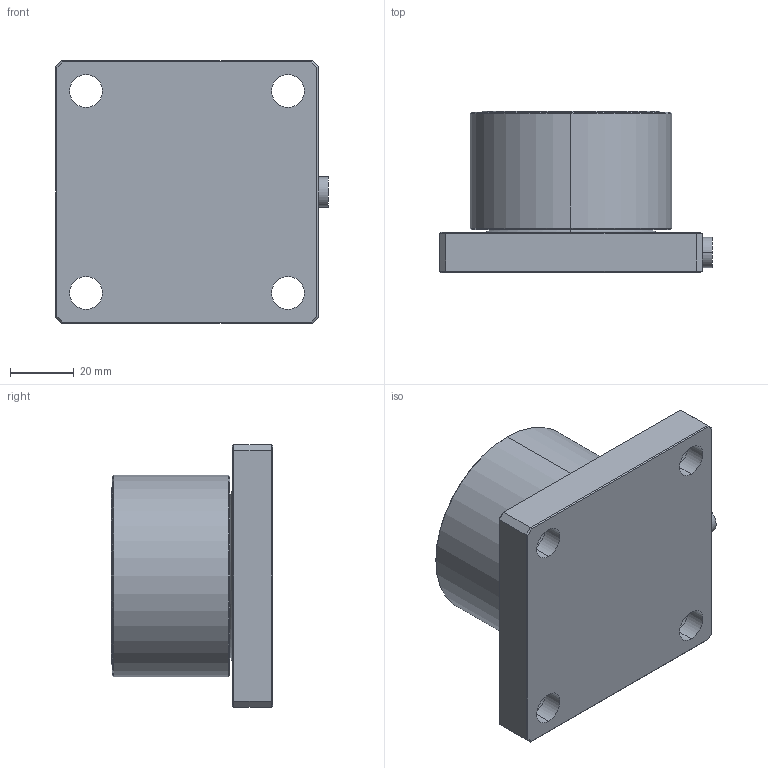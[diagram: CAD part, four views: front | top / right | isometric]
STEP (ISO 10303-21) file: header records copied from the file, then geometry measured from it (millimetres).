
FILE_DESCRIPTION (( 'STEP AP214' ), '1' );
FILE_NAME ('SS1352-1KLB.STEP', '2024-08-23T18:17:36', ( '' ), ( '' ), 'SwSTEP 2.0', 'SolidWorks 2008', '' );
FILE_SCHEMA (( 'AUTOMOTIVE_DESIGN' ));
Length unit declared in the file: inch
Products named in the file (1): SS1352-1KLB
Bounding box: 85.72 x 50.8 x 82.55 mm (x, y, z)
Volume: 195895 mm3; surface area: 30725.9 mm2
Topology: 1 solids, 1 shells, 86 faces, 192 edges, 112 vertices
Faces by surface type: plane 34, cylinder 28, cone 22, torus 2
Entity records: 2353 total; most frequent: DIRECTION 436, CARTESIAN_POINT 383, ORIENTED_EDGE 368, EDGE_CURVE 184, AXIS2_PLACEMENT_3D 165, VERTEX_POINT 112, EDGE_LOOP 106, VECTOR 106
